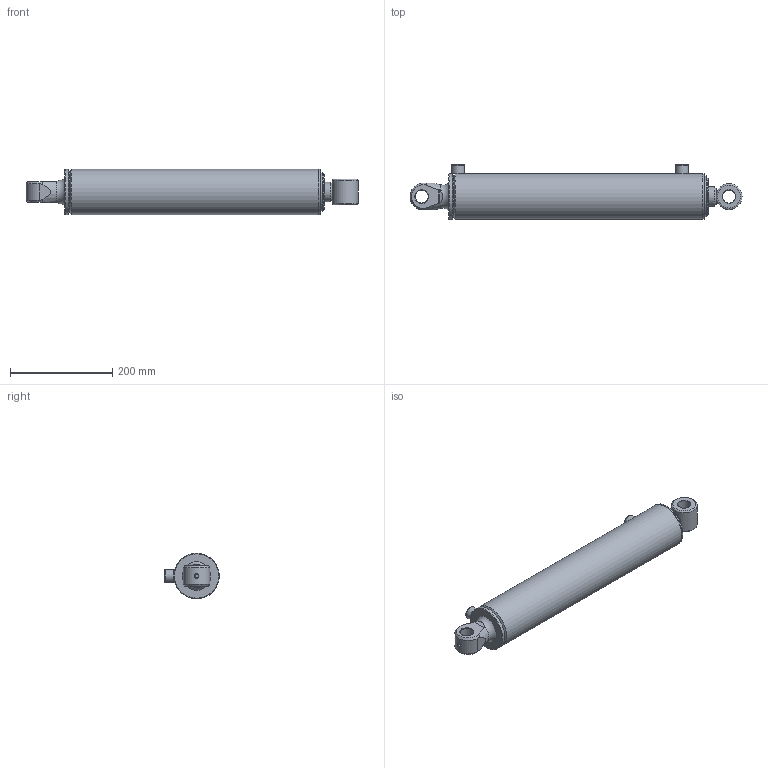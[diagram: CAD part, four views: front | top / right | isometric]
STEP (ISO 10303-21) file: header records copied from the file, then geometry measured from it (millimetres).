
FILE_DESCRIPTION(/* description */ ('Alibre Inc.'),/* implementation_level */ '2;1');
FILE_NAME(/* name */ 'export0',/* time_stamp */ '2016-08-16T10:01:10+12:00',/* author */ (''),/* organization */ (''),/* preprocessor_version */ 'ST-DEVELOPER v14',/* originating_system */ 'Alibre',/* authorisation */ '');
FILE_SCHEMA (('AUTOMOTIVE_DESIGN'));
Length unit declared in the file: centimetre
Bounding box: 649.13 x 106.9 x 88.9 mm (x, y, z)
Volume: 1891872.8 mm3; surface area: 432622.4 mm2
Topology: 12 solids, 12 shells, 157 faces, 332 edges, 209 vertices
Faces by surface type: cylinder 61, plane 57, cone 23, torus 13, sphere 2, bspline 1
Full cylindrical faces by diameter (mm): 7 x1, 8.3 x2, 8.8 x1, 9.525 x2, 15.25 x2, 23 x1, 23.622 x1, 25 x2, 25.4 x2, 25.451 x1, 38.1 x2, 38.18 x2, 44.45 x1, 46.9 x2, 47.62 x2, 50.8 x1, 60.33 x1, 69.2 x1, 70.36 x1, 71.6 x2, 72.57 x2, 72.87 x1, 74.83 x2, 76.09 x2, 76.1 x1, 76.2 x2, 79.4 x1, 88.9 x3
Entity records: 4365 total; most frequent: CARTESIAN_POINT 1210, DIRECTION 599, ORIENTED_EDGE 456, AXIS2_PLACEMENT_3D 310, FACE_BOUND 271, EDGE_LOOP 269, EDGE_CURVE 228, VERTEX_POINT 191
